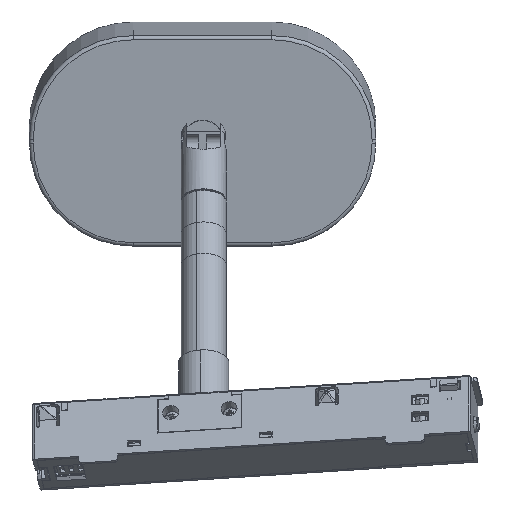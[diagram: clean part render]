
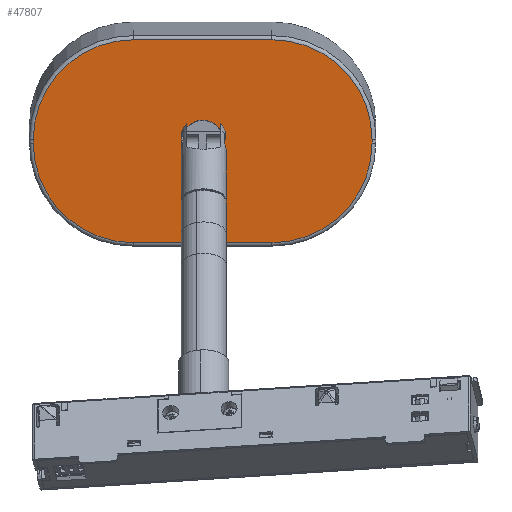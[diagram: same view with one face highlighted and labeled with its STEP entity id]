
A CAD part, top view. The second image highlights one B-rep face of the part: STEP entity #47807.
In plain terms, the highlighted planar face has unit normal (0, -0.108, 0.994) as drawn and (0, 0, 1) by its records, which use the part's own axes.
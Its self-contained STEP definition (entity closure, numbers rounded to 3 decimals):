
#1202 = ORIENTED_EDGE ( 'NONE', *, *, #52575, .T. ) ;
#2127 = LINE ( 'NONE', #66159, #20791 ) ;
#2333 = CIRCLE ( 'NONE', #75839, 26. ) ;
#2589 = EDGE_CURVE ( 'NONE', #66729, #46880, #2127, .T. ) ;
#4166 = ORIENTED_EDGE ( 'NONE', *, *, #57164, .T. ) ;
#4804 = EDGE_CURVE ( 'NONE', #64151, #72835, #54431, .T. ) ;
#5400 = VERTEX_POINT ( 'NONE', #71300 ) ;
#5965 = CARTESIAN_POINT ( 'NONE',  ( 5.5, 0., 35. ) ) ;
#6234 = VERTEX_POINT ( 'NONE', #56290 ) ;
#6939 = CARTESIAN_POINT ( 'NONE',  ( 44., 0.5, 35. ) ) ;
#7570 = DIRECTION ( 'NONE',  ( -1., 0., 0. ) ) ;
#8046 = CARTESIAN_POINT ( 'NONE',  ( -44., 0.5, 35. ) ) ;
#8250 = DIRECTION ( 'NONE',  ( -1., 0., 0. ) ) ;
#9263 = EDGE_LOOP ( 'NONE', ( #77834, #39682 ) ) ;
#9937 = DIRECTION ( 'NONE',  ( 0., -1., 0. ) ) ;
#10870 = CARTESIAN_POINT ( 'NONE',  ( 18., 0.5, 35. ) ) ;
#10930 = EDGE_CURVE ( 'NONE', #46880, #69555, #56282, .T. ) ;
#11318 = VERTEX_POINT ( 'NONE', #50882 ) ;
#17458 = LINE ( 'NONE', #53050, #43020 ) ;
#18267 = AXIS2_PLACEMENT_3D ( 'NONE', #53201, #47454, #78546 ) ;
#18844 = CARTESIAN_POINT ( 'NONE',  ( -18., 0.5, 35. ) ) ;
#19192 = CARTESIAN_POINT ( 'NONE',  ( 18., 26.5, 35. ) ) ;
#20138 = CARTESIAN_POINT ( 'NONE',  ( -5.5, 0., 35. ) ) ;
#20791 = VECTOR ( 'NONE', #34505, 1000. ) ;
#21335 = VERTEX_POINT ( 'NONE', #21590 ) ;
#21590 = CARTESIAN_POINT ( 'NONE',  ( -44., -0.5, 35. ) ) ;
#21731 = FACE_OUTER_BOUND ( 'NONE', #39113, .T. ) ;
#26776 = EDGE_CURVE ( 'NONE', #72956, #21335, #17458, .T. ) ;
#27699 = AXIS2_PLACEMENT_3D ( 'NONE', #18844, #31434, #36425 ) ;
#29266 = AXIS2_PLACEMENT_3D ( 'NONE', #70728, #58683, #7570 ) ;
#31434 = DIRECTION ( 'NONE',  ( 0., 0., 1. ) ) ;
#31965 = DIRECTION ( 'NONE',  ( 0., 0., 1. ) ) ;
#34505 = DIRECTION ( 'NONE',  ( 0., 1., 0. ) ) ;
#35145 = VECTOR ( 'NONE', #67926, 1000. ) ;
#35567 = DIRECTION ( 'NONE',  ( -1., 0., 0. ) ) ;
#36108 = PLANE ( 'NONE',  #77650 ) ;
#36425 = DIRECTION ( 'NONE',  ( -1., 0., 0. ) ) ;
#37884 = CIRCLE ( 'NONE', #27699, 26. ) ;
#39113 = EDGE_LOOP ( 'NONE', ( #56326, #43124, #53387, #51300, #54237, #78760, #4166, #1202 ) ) ;
#39682 = ORIENTED_EDGE ( 'NONE', *, *, #4804, .F. ) ;
#40693 = CARTESIAN_POINT ( 'NONE',  ( -18., -0.5, 35. ) ) ;
#41345 = AXIS2_PLACEMENT_3D ( 'NONE', #46164, #58830, #8250 ) ;
#43020 = VECTOR ( 'NONE', #9937, 1000. ) ;
#43124 = ORIENTED_EDGE ( 'NONE', *, *, #2589, .T. ) ;
#44469 = LINE ( 'NONE', #66179, #71876 ) ;
#46164 = CARTESIAN_POINT ( 'NONE',  ( 0., 0., 35. ) ) ;
#46461 = EDGE_CURVE ( 'NONE', #11318, #66729, #67110, .T. ) ;
#46880 = VERTEX_POINT ( 'NONE', #6939 ) ;
#47454 = DIRECTION ( 'NONE',  ( 0., 0., 1. ) ) ;
#47807 = ADVANCED_FACE ( 'NONE', ( #78788, #21731 ), #36108, .F. ) ;
#50882 = CARTESIAN_POINT ( 'NONE',  ( 18., -26.5, 35. ) ) ;
#51300 = ORIENTED_EDGE ( 'NONE', *, *, #64039, .T. ) ;
#51910 = LINE ( 'NONE', #61383, #35145 ) ;
#52575 = EDGE_CURVE ( 'NONE', #5400, #11318, #51910, .T. ) ;
#53050 = CARTESIAN_POINT ( 'NONE',  ( -44., 0.5, 35. ) ) ;
#53201 = CARTESIAN_POINT ( 'NONE',  ( 0., 0., 35. ) ) ;
#53316 = DIRECTION ( 'NONE',  ( -1., 0., 0. ) ) ;
#53387 = ORIENTED_EDGE ( 'NONE', *, *, #10930, .T. ) ;
#54237 = ORIENTED_EDGE ( 'NONE', *, *, #77173, .T. ) ;
#54431 = CIRCLE ( 'NONE', #41345, 5.5 ) ;
#56282 = CIRCLE ( 'NONE', #29266, 26. ) ;
#56290 = CARTESIAN_POINT ( 'NONE',  ( -18., 26.5, 35. ) ) ;
#56326 = ORIENTED_EDGE ( 'NONE', *, *, #46461, .T. ) ;
#57164 = EDGE_CURVE ( 'NONE', #21335, #5400, #2333, .T. ) ;
#58683 = DIRECTION ( 'NONE',  ( 0., 0., 1. ) ) ;
#58830 = DIRECTION ( 'NONE',  ( 0., 0., 1. ) ) ;
#60354 = CIRCLE ( 'NONE', #18267, 5.5 ) ;
#60771 = DIRECTION ( 'NONE',  ( 0., 0., 1. ) ) ;
#61383 = CARTESIAN_POINT ( 'NONE',  ( 18., -26.5, 35. ) ) ;
#62850 = CARTESIAN_POINT ( 'NONE',  ( 44., -0.5, 35. ) ) ;
#64039 = EDGE_CURVE ( 'NONE', #69555, #6234, #44469, .T. ) ;
#64151 = VERTEX_POINT ( 'NONE', #5965 ) ;
#66159 = CARTESIAN_POINT ( 'NONE',  ( 44., 0.5, 35. ) ) ;
#66179 = CARTESIAN_POINT ( 'NONE',  ( 18., 26.5, 35. ) ) ;
#66674 = EDGE_CURVE ( 'NONE', #72835, #64151, #60354, .T. ) ;
#66729 = VERTEX_POINT ( 'NONE', #62850 ) ;
#67110 = CIRCLE ( 'NONE', #70151, 26. ) ;
#67198 = DIRECTION ( 'NONE',  ( 0., 0., -1. ) ) ;
#67926 = DIRECTION ( 'NONE',  ( 1., 0., 0. ) ) ;
#69555 = VERTEX_POINT ( 'NONE', #19192 ) ;
#69611 = CARTESIAN_POINT ( 'NONE',  ( 18., -0.5, 35. ) ) ;
#70151 = AXIS2_PLACEMENT_3D ( 'NONE', #69611, #31965, #76790 ) ;
#70728 = CARTESIAN_POINT ( 'NONE',  ( 18., 0.5, 35. ) ) ;
#71300 = CARTESIAN_POINT ( 'NONE',  ( -18., -26.5, 35. ) ) ;
#71876 = VECTOR ( 'NONE', #79343, 1000. ) ;
#72835 = VERTEX_POINT ( 'NONE', #20138 ) ;
#72956 = VERTEX_POINT ( 'NONE', #8046 ) ;
#75839 = AXIS2_PLACEMENT_3D ( 'NONE', #40693, #60771, #53316 ) ;
#76790 = DIRECTION ( 'NONE',  ( -1., 0., 0. ) ) ;
#77173 = EDGE_CURVE ( 'NONE', #6234, #72956, #37884, .T. ) ;
#77650 = AXIS2_PLACEMENT_3D ( 'NONE', #10870, #67198, #35567 ) ;
#77834 = ORIENTED_EDGE ( 'NONE', *, *, #66674, .F. ) ;
#78546 = DIRECTION ( 'NONE',  ( -1., 0., 0. ) ) ;
#78760 = ORIENTED_EDGE ( 'NONE', *, *, #26776, .T. ) ;
#78788 = FACE_BOUND ( 'NONE', #9263, .T. ) ;
#79343 = DIRECTION ( 'NONE',  ( -1., 0., 0. ) ) ;
